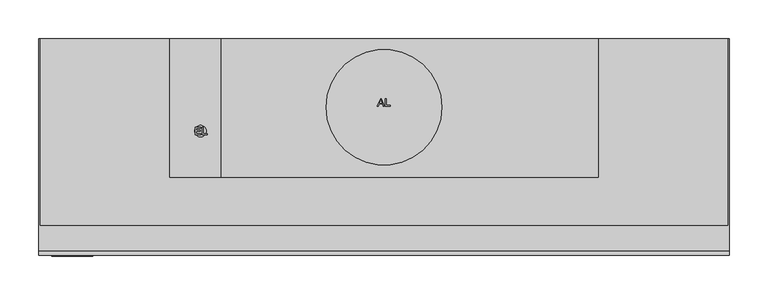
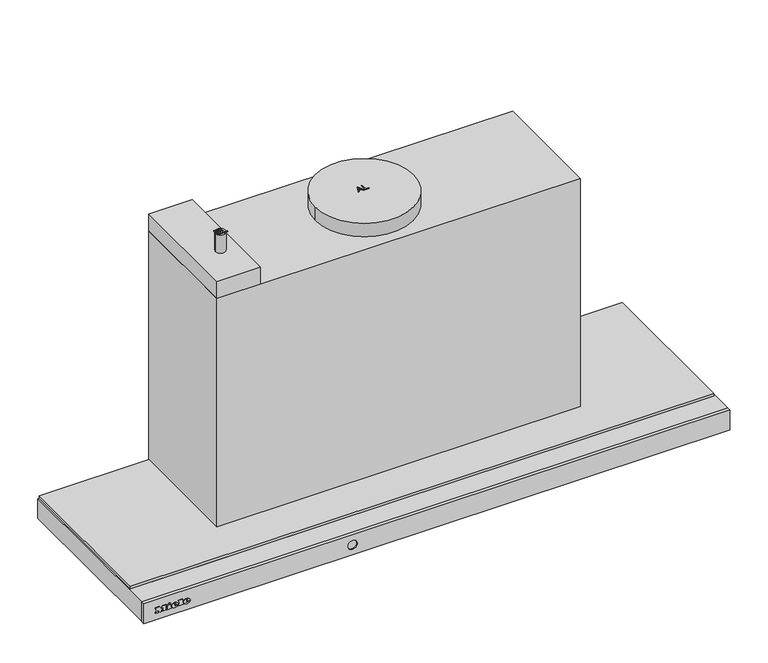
"""IFC4 building model written with IfcOpenShell, lengths in millimetres: proxy geometry, 12025120_NER_DAS4930_OBSW : 28S4930B_NER_12025120_DAS4930_OBSW."""

from ifc_helpers import new_model, si_unit, point, frame, frame_2d, origin, origin_with_axes, place, context, project, spatial, polyline, circle_curve, ellipse_curve, trimmed, segment, composite_curve, outline, extrude, faceted_brep, source, transform, mapped, element, save
from ifc_brep_helpers import plane_surface, cylinder_surface, revolved_surface, extruded_surface, advanced_brep


def specialty_equipment_2f2f18a0(model_context):
    return source(origin(), model_context, "Body", "SolidModel", [
        advanced_brep(
        [(-383.4590019, -282.1878927, -18.7681017), (-383.4590019, -282.1878927, -17.8894017), (-377.6387019, -282.1878927, -17.8894017), (-387.7655019, -282.1878927, -17.8894017), (-385.3730019, -282.1878927, -20.8300017), (-377.7866019, -282.1878927, -18.7681017), (-380.4140019, -282.1878927, -18.7681017), (-382.4846019, -282.1878927, -19.7425017), (-383.4590019, -282.1878927, -16.7758017), (-383.4590019, -282.1878927, -15.8275017), (-381.9713019, -282.1878927, -15.8275017), (-381.9713019, -282.1878927, -16.7758017), (-383.4590019, -281.1878927, -18.7681017), (-382.4846019, -281.1878927, -19.7425017), (-380.4140019, -281.1878927, -18.7681017), (-377.7866019, -281.1878927, -18.7681017), (-385.3730019, -281.1878927, -20.8300017), (-387.7655019, -281.1878927, -17.8894017), (-377.6387019, -281.1878927, -17.8894017), (-383.4590019, -281.1878927, -17.8894017), (-383.4590019, -281.1878927, -16.7758017), (-381.9713019, -281.1878927, -16.7758017), (-381.9713019, -281.1878927, -15.8275017), (-383.4590019, -281.1878927, -15.8275017)],
        [
            (0, 1),
            (1, 2),
            (2, 3, ellipse_curve(frame((-382.7021019, -282.1878927, -17.8894017), z_axis=(0.0, -1.0, 0.0), x_axis=(-1.0, 0.0, 0.0)), 5.0634, 4.1847)),
            (3, 4, circle_curve(frame((-384.3985544, -282.1878927, -17.5936017), z_axis=(0.0, -1.0, 0.0), x_axis=(0.0, 0.0, -1.0)), 3.3799161)),
            (4, 5, circle_curve(frame((-382.8034638, -282.1878927, -15.2968017), z_axis=(0.0, -1.0, 0.0), x_axis=(0.0, 0.0, -1.0)), 6.1007236)),
            (5, 6),
            (6, 7, circle_curve(frame((-382.0593254, -282.1878927, -17.9590017), z_axis=(0.0, 1.0, 0.0), x_axis=(0.0, 0.0, -1.0)), 1.8335027)),
            (7, 0, circle_curve(frame((-382.4846019, -282.1878927, -18.7681017), z_axis=(0.0, 1.0, 0.0), x_axis=(0.0, 0.0, -1.0)), 0.9744)),
            (8, 9),
            (9, 10, circle_curve(frame((-382.7151519, -282.1878927, -15.8275017), z_axis=(0.0, 1.0, 0.0), x_axis=(0.0, 0.0, -1.0)), 0.74385)),
            (10, 11),
            (11, 8),
            (12, 13, circle_curve(frame((-382.4846019, -281.1878927, -18.7681017), z_axis=(0.0, -1.0, 0.0), x_axis=(0.0, 0.0, -1.0)), 0.9744)),
            (13, 14, circle_curve(frame((-382.0593254, -281.1878927, -17.9590017), z_axis=(0.0, -1.0, 0.0), x_axis=(0.0, 0.0, -1.0)), 1.8335027)),
            (14, 15),
            (15, 16, circle_curve(frame((-382.8034638, -281.1878927, -15.2968017), z_axis=(0.0, 1.0, 0.0), x_axis=(0.0, 0.0, -1.0)), 6.1007236)),
            (16, 17, circle_curve(frame((-384.3985544, -281.1878927, -17.5936017), z_axis=(0.0, 1.0, 0.0), x_axis=(0.0, 0.0, -1.0)), 3.3799161)),
            (17, 18, ellipse_curve(frame((-382.7021019, -281.1878927, -17.8894017), z_axis=(0.0, 1.0, 0.0), x_axis=(-1.0, 0.0, 0.0)), 5.0634, 4.1847)),
            (18, 19),
            (19, 12),
            (20, 21),
            (21, 22),
            (22, 23, circle_curve(frame((-382.7151519, -281.1878927, -15.8275017), z_axis=(0.0, -1.0, 0.0), x_axis=(0.0, 0.0, -1.0)), 0.74385)),
            (23, 20),
            (0, 12),
            (19, 1),
            (18, 2),
            (5, 15),
            (14, 6),
            (17, 3),
            (13, 7),
            (16, 4),
            (8, 20),
            (23, 9),
            (22, 10),
            (21, 11),
        ],
        [
            plane_surface(frame((-383.4590019, -282.1878927, -17.8894017), z_axis=(0.0, -1.0, 0.0), x_axis=(0.0, 0.0, 1.0))),
            plane_surface(frame((-383.4590019, -281.1878927, -17.8894017), z_axis=(0.0, 1.0, 0.0), x_axis=(0.0, 0.0, -1.0))),
            plane_surface(frame((-383.4590019, -282.1878927, -18.7681017), z_axis=(1.0, 0.0, 0.0), x_axis=(0.0, 1.0, 0.0))),
            plane_surface(frame((-383.4590019, -282.1878927, -17.8894017), z_axis=(0.0, 0.0, -1.0), x_axis=(0.0, 1.0, 0.0))),
            plane_surface(frame((-377.7866019, -282.1878927, -18.7681017), z_axis=(0.0, 0.0, 1.0), x_axis=(0.0, 1.0, 0.0))),
            extruded_surface(trimmed(ellipse_curve(frame((-382.7021019, -280.1878927, -17.8894017), z_axis=(0.0, -1.0, 0.0), x_axis=(-1.0, 0.0, 0.0)), 5.0634, 4.1847), [point((-377.6387019, -280.1878927, -17.8894017))], [point((-387.7655019, -280.1878927, -17.8894017))], True, "CARTESIAN"), (0.0, -1.0, 0.0), 1.0),
            revolved_surface(polyline([(-382.0593254, -281.1878927, -19.792504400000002), (-382.0593254, -282.1878927, -19.792504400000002)]), (-382.0593254, -281.1878927, -17.9590017), (0.0, 1.0, 0.0)),
            revolved_surface(polyline([(-382.4846019, -281.1878927, -19.7425017), (-382.4846019, -282.1878927, -19.7425017)]), (-382.4846019, -281.1878927, -18.7681017), (0.0, 1.0, 0.0)),
            cylinder_surface(frame((-384.3985544, -281.1878927, -17.5936017), z_axis=(0.0, -1.0, 0.0), x_axis=(0.0, 0.0, -1.0)), 3.3799161),
            cylinder_surface(frame((-382.8034638, -281.1878927, -15.2968017), z_axis=(0.0, -1.0, 0.0), x_axis=(0.0, 0.0, -1.0)), 6.1007236),
            plane_surface(frame((-383.4590019, -282.1878927, -16.7758017), z_axis=(1.0, 0.0, 0.0), x_axis=(0.0, 1.0, 0.0))),
            revolved_surface(polyline([(-382.7151519, -281.1878927, -16.571351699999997), (-382.7151519, -282.1878927, -16.571351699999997)]), (-382.7151519, -281.1878927, -15.8275017), (0.0, 1.0, 0.0)),
            plane_surface(frame((-381.9713019, -282.1878927, -15.8275017), z_axis=(-1.0, 0.0, 0.0), x_axis=(0.0, 1.0, 0.0))),
            plane_surface(frame((-381.9713019, -282.1878927, -16.7758017), z_axis=(0.0, 0.0, 1.0), x_axis=(0.0, 1.0, 0.0))),
        ],
        [
            (0, [[1, 2, 3, 4, 5, 6, 7, 8], [9, 10, 11, 12]]),
            (1, [[13, 14, 15, 16, 17, 18, 19, 20], [21, 22, 23, 24]]),
            (2, [[-1, 25, -20, 26]]),
            (3, [[-2, -26, -19, 27]]),
            (4, [[-6, 28, -15, 29]]),
            (5, [[-3, -27, -18, 30]]),
            (6, [[-7, -29, -14, 31]]),
            (7, [[-8, -31, -13, -25]]),
            (8, [[-4, -30, -17, 32]]),
            (9, [[-5, -32, -16, -28]]),
            (10, [[-9, 33, -24, 34]]),
            (11, [[-10, -34, -23, 35]]),
            (12, [[-11, -35, -22, 36]]),
            (13, [[-12, -36, -21, -33]]),
        ],
    ),
        advanced_brep(
        [(-401.6159019, -282.1878927, -18.7681017), (-401.6159019, -282.1878927, -17.8894017), (-395.7956019, -282.1878927, -17.8894017), (-405.9224019, -282.1878927, -17.8894017), (-403.5299019, -282.1878927, -20.8300017), (-395.9435019, -282.1878927, -18.7681017), (-398.5709019, -282.1878927, -18.7681017), (-400.6415019, -282.1878927, -19.7425017), (-401.6159019, -282.1878927, -16.7758017), (-401.6159019, -282.1878927, -15.8275017), (-400.1282019, -282.1878927, -15.8275017), (-400.1282019, -282.1878927, -16.7758017), (-401.6159019, -281.1878927, -18.7681017), (-400.6415019, -281.1878927, -19.7425017), (-398.5709019, -281.1878927, -18.7681017), (-395.9435019, -281.1878927, -18.7681017), (-403.5299019, -281.1878927, -20.8300017), (-405.9224019, -281.1878927, -17.8894017), (-395.7956019, -281.1878927, -17.8894017), (-401.6159019, -281.1878927, -17.8894017), (-401.6159019, -281.1878927, -16.7758017), (-400.1282019, -281.1878927, -16.7758017), (-400.1282019, -281.1878927, -15.8275017), (-401.6159019, -281.1878927, -15.8275017)],
        [
            (0, 1),
            (1, 2),
            (2, 3, ellipse_curve(frame((-400.8590019, -282.1878927, -17.8894017), z_axis=(0.0, -1.0, 0.0), x_axis=(-1.0, 0.0, 0.0)), 5.0634, 4.1847)),
            (3, 4, circle_curve(frame((-402.5554544, -282.1878927, -17.5936017), z_axis=(0.0, -1.0, 0.0), x_axis=(0.0, 0.0, -1.0)), 3.3799161)),
            (4, 5, circle_curve(frame((-400.9603638, -282.1878927, -15.2968017), z_axis=(0.0, -1.0, 0.0), x_axis=(0.0, 0.0, -1.0)), 6.1007236)),
            (5, 6),
            (6, 7, circle_curve(frame((-400.2162254, -282.1878927, -17.9590017), z_axis=(0.0, 1.0, 0.0), x_axis=(0.0, 0.0, -1.0)), 1.8335027)),
            (7, 0, circle_curve(frame((-400.6415019, -282.1878927, -18.7681017), z_axis=(0.0, 1.0, 0.0), x_axis=(0.0, 0.0, -1.0)), 0.9744)),
            (8, 9),
            (9, 10, circle_curve(frame((-400.8720519, -282.1878927, -15.8275017), z_axis=(0.0, 1.0, 0.0), x_axis=(0.0, 0.0, -1.0)), 0.74385)),
            (10, 11),
            (11, 8),
            (12, 13, circle_curve(frame((-400.6415019, -281.1878927, -18.7681017), z_axis=(0.0, -1.0, 0.0), x_axis=(0.0, 0.0, -1.0)), 0.9744)),
            (13, 14, circle_curve(frame((-400.2162254, -281.1878927, -17.9590017), z_axis=(0.0, -1.0, 0.0), x_axis=(0.0, 0.0, -1.0)), 1.8335027)),
            (14, 15),
            (15, 16, circle_curve(frame((-400.9603638, -281.1878927, -15.2968017), z_axis=(0.0, 1.0, 0.0), x_axis=(0.0, 0.0, -1.0)), 6.1007236)),
            (16, 17, circle_curve(frame((-402.5554544, -281.1878927, -17.5936017), z_axis=(0.0, 1.0, 0.0), x_axis=(0.0, 0.0, -1.0)), 3.3799161)),
            (17, 18, ellipse_curve(frame((-400.8590019, -281.1878927, -17.8894017), z_axis=(0.0, 1.0, 0.0), x_axis=(-1.0, 0.0, 0.0)), 5.0634, 4.1847)),
            (18, 19),
            (19, 12),
            (20, 21),
            (21, 22),
            (22, 23, circle_curve(frame((-400.8720519, -281.1878927, -15.8275017), z_axis=(0.0, -1.0, 0.0), x_axis=(0.0, 0.0, -1.0)), 0.74385)),
            (23, 20),
            (0, 12),
            (19, 1),
            (18, 2),
            (5, 15),
            (14, 6),
            (17, 3),
            (13, 7),
            (16, 4),
            (8, 20),
            (23, 9),
            (22, 10),
            (21, 11),
        ],
        [
            plane_surface(frame((-401.6159019, -282.1878927, -17.8894017), z_axis=(0.0, -1.0, 0.0), x_axis=(0.0, 0.0, 1.0))),
            plane_surface(frame((-401.6159019, -281.1878927, -17.8894017), z_axis=(0.0, 1.0, 0.0), x_axis=(0.0, 0.0, -1.0))),
            plane_surface(frame((-401.6159019, -282.1878927, -18.7681017), z_axis=(1.0, 0.0, 0.0), x_axis=(0.0, 1.0, 0.0))),
            plane_surface(frame((-401.6159019, -282.1878927, -17.8894017), z_axis=(0.0, 0.0, -1.0), x_axis=(0.0, 1.0, 0.0))),
            plane_surface(frame((-395.9435019, -282.1878927, -18.7681017), z_axis=(0.0, 0.0, 1.0), x_axis=(0.0, 1.0, 0.0))),
            extruded_surface(trimmed(ellipse_curve(frame((-400.8590019, -280.1878927, -17.8894017), z_axis=(0.0, -1.0, 0.0), x_axis=(-1.0, 0.0, 0.0)), 5.0634, 4.1847), [point((-395.7956019, -280.1878927, -17.8894017))], [point((-405.9224019, -280.1878927, -17.8894017))], True, "CARTESIAN"), (0.0, -1.0, 0.0), 1.0),
            revolved_surface(polyline([(-400.2162254, -281.1878927, -19.792504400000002), (-400.2162254, -282.1878927, -19.792504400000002)]), (-400.2162254, -281.1878927, -17.9590017), (0.0, 1.0, 0.0)),
            revolved_surface(polyline([(-400.6415019, -281.1878927, -19.7425017), (-400.6415019, -282.1878927, -19.7425017)]), (-400.6415019, -281.1878927, -18.7681017), (0.0, 1.0, 0.0)),
            cylinder_surface(frame((-402.5554544, -281.1878927, -17.5936017), z_axis=(0.0, -1.0, 0.0), x_axis=(0.0, 0.0, -1.0)), 3.3799161),
            cylinder_surface(frame((-400.9603638, -281.1878927, -15.2968017), z_axis=(0.0, -1.0, 0.0), x_axis=(0.0, 0.0, -1.0)), 6.1007236),
            plane_surface(frame((-401.6159019, -282.1878927, -16.7758017), z_axis=(1.0, 0.0, 0.0), x_axis=(0.0, 1.0, 0.0))),
            revolved_surface(polyline([(-400.8720519, -281.1878927, -16.571351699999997), (-400.8720519, -282.1878927, -16.571351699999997)]), (-400.8720519, -281.1878927, -15.8275017), (0.0, 1.0, 0.0)),
            plane_surface(frame((-400.1282019, -282.1878927, -15.8275017), z_axis=(-1.0, 0.0, 0.0), x_axis=(0.0, 1.0, 0.0))),
            plane_surface(frame((-400.1282019, -282.1878927, -16.7758017), z_axis=(0.0, 0.0, 1.0), x_axis=(0.0, 1.0, 0.0))),
        ],
        [
            (0, [[1, 2, 3, 4, 5, 6, 7, 8], [9, 10, 11, 12]]),
            (1, [[13, 14, 15, 16, 17, 18, 19, 20], [21, 22, 23, 24]]),
            (2, [[-1, 25, -20, 26]]),
            (3, [[-2, -26, -19, 27]]),
            (4, [[-6, 28, -15, 29]]),
            (5, [[-3, -27, -18, 30]]),
            (6, [[-7, -29, -14, 31]]),
            (7, [[-8, -31, -13, -25]]),
            (8, [[-4, -30, -17, 32]]),
            (9, [[-5, -32, -16, -28]]),
            (10, [[-9, 33, -24, 34]]),
            (11, [[-10, -34, -23, 35]]),
            (12, [[-11, -35, -22, 36]]),
            (13, [[-12, -36, -21, -33]]),
        ],
    ),
        extrude(outline(polyline([(-12.6433017, -411.1250019), (-14.0527017, -410.4638019), (-12.6781017, -407.5145019), (-11.2687017, -408.1670019), (-12.6433017, -411.1250019)])), frame((0.0, -282.1878927, 0.0), z_axis=(0.0, 1.0, 0.0), x_axis=(0.0, 0.0, 1.0)), (0.0, 0.0, 1.0), 1.0),
        extrude(outline(polyline([(-14.2441017, -413.2739019), (-15.8014017, -413.2739019), (-15.8014017, -412.2386019), (-19.3684017, -412.2386019), (-19.3684017, -413.2739019), (-20.8300017, -413.2739019), (-20.8300017, -406.4096019), (-19.3684017, -406.4096019), (-19.3684017, -407.4188019), (-14.2441017, -407.4188019), (-14.2441017, -413.2739019)])), frame((0.0, -282.1878927, 0.0), z_axis=(0.0, 1.0, 0.0), x_axis=(0.0, 0.0, 1.0)), (0.0, 0.0, 1.0), 1.0),
        extrude(outline(polyline([(-13.5481017, -395.3084019), (-13.5481017, -394.2644019), (-19.3684017, -394.2644019), (-19.3684017, -395.3084019), (-20.8300017, -395.3084019), (-20.8300017, -388.2527019), (-19.3684017, -388.2527019), (-19.3684017, -389.3228019), (-12.1300017, -389.3228019), (-12.1300017, -395.3084019), (-13.5481017, -395.3084019)])), frame((0.0, -282.1878927, 0.0), z_axis=(0.0, 1.0, 0.0), x_axis=(0.0, 0.0, 1.0)), (0.0, 0.0, 1.0), 1.0),
        extrude(outline(polyline([(-13.5481017, -430.6130019), (-13.5481017, -429.5603019), (-19.3684017, -429.5603019), (-19.3684017, -430.6130019), (-20.8300017, -430.6130019), (-20.8300017, -426.7850019), (-19.3684017, -426.7850019), (-19.3684017, -427.8290019), (-15.6719769, -427.8290019), (-20.8300017, -423.9401019), (-15.5772794, -420.0338019), (-19.3684017, -420.0338019), (-19.3684017, -421.1039019), (-20.8300017, -421.1039019), (-20.8300017, -414.1613019), (-19.3684017, -414.1613019), (-19.3684017, -415.2662019), (-13.5481017, -415.2662019), (-13.5481017, -414.1613019), (-12.1300017, -414.1613019), (-12.1300017, -419.4596019), (-15.3925017, -422.0000019), (-12.1300017, -424.5491019), (-12.1300017, -430.6130019), (-13.5481017, -430.6130019)])), frame((0.0, -282.1878927, 0.0), z_axis=(0.0, 1.0, 0.0), x_axis=(0.0, 0.0, 1.0)), (0.0, 0.0, 1.0), 1.0),
        advanced_brep(
        [(-448.0, -281.1878927, 0.0), (-448.0, -281.1878927, -32.0), (448.0, -281.1878927, -32.0), (448.0, -281.1878927, 0.0), (-121.989338, -281.1878927, -16.0), (-136.010662, -281.1878927, -16.0), (-448.0, -275.4770358, 0.0), (448.0, -275.4770358, 0.0), (448.0, -275.4770358, -32.0), (-448.0, -275.4770358, -32.0), (-136.010662, -279.3472208, -16.0), (-121.989338, -279.3472208, -16.0)],
        [
            (0, 1),
            (1, 2),
            (2, 3),
            (3, 0),
            (4, 5, circle_curve(frame((-129.0, -281.1878927, -16.0), z_axis=(0.0, 1.0, 0.0), x_axis=(1.0, 0.0, 0.0)), 7.010662)),
            (5, 4, circle_curve(frame((-129.0, -281.1878927, -16.0), z_axis=(0.0, 1.0, 0.0), x_axis=(1.0, 0.0, 0.0)), 7.010662)),
            (6, 7),
            (7, 8),
            (8, 9),
            (9, 6),
            (3, 7),
            (6, 0),
            (2, 8),
            (1, 9),
            (10, 11, circle_curve(frame((-129.0, -279.3472208, -16.0), z_axis=(0.0, -1.0, 0.0), x_axis=(1.0, 0.0, 0.0)), 7.010662)),
            (11, 10, circle_curve(frame((-129.0, -279.3472208, -16.0), z_axis=(0.0, -1.0, 0.0), x_axis=(1.0, 0.0, 0.0)), 7.010662)),
            (10, 5),
            (4, 11),
        ],
        [
            plane_surface(frame((-448.0, -281.1878927, 0.0), z_axis=(0.0, -1.0, 0.0), x_axis=(0.0, 0.0, -1.0))),
            plane_surface(frame((-448.0, -275.4770358, 0.0), z_axis=(0.0, 1.0, 0.0), x_axis=(0.0, 0.0, 1.0))),
            plane_surface(frame((448.0, -281.1878927, 0.0), z_axis=(0.0, 0.0, 1.0), x_axis=(0.0, 1.0, 0.0))),
            plane_surface(frame((448.0, -281.1878927, -32.0), z_axis=(1.0, 0.0, 0.0), x_axis=(0.0, 1.0, 0.0))),
            plane_surface(frame((-448.0, -281.1878927, -32.0), z_axis=(0.0, 0.0, -1.0), x_axis=(0.0, 1.0, 0.0))),
            plane_surface(frame((-448.0, -281.1878927, 0.0), z_axis=(-1.0, 0.0, 0.0), x_axis=(0.0, 1.0, 0.0))),
            plane_surface(frame((-121.989338, -279.3472208, -16.0), z_axis=(0.0, -1.0, 0.0), x_axis=(0.0, 0.0, -1.0))),
            revolved_surface(polyline([(-121.989338, -281.1878927, -16.0), (-121.989338, -279.3472208, -16.0)]), (-129.0, -279.3472208, -16.0), (0.0, -1.0, 0.0)),
        ],
        [
            (0, [[1, 2, 3, 4], [5, 6]]),
            (1, [[7, 8, 9, 10]]),
            (2, [[-4, 11, -7, 12]]),
            (3, [[-3, 13, -8, -11]]),
            (4, [[-2, 14, -9, -13]]),
            (5, [[-1, -12, -10, -14]]),
            (6, [[15, 16]]),
            (7, [[-15, 17, -5, 18]]),
            (7, [[-16, -18, -6, -17]]),
        ],
    ),
        extrude(outline(polyline([(278.0, -180.0), (-278.0, -180.0), (-278.0, 0.0), (278.0, 0.0), (278.0, -180.0)])), frame((0.0, 0.0, 4.0), z_axis=(0.0, 0.0, 1.0), x_axis=(1.0, 0.0, 0.0)), (0.0, 0.0, 1.0), 369.0),
        extrude(outline(composite_curve([segment(trimmed(circle_curve(frame_2d((0.0, -89.0)), 75.0), [point((-75.0, -89.0))], [point((75.0, -89.0))], False, "CARTESIAN"), True, "CONTINUOUS"), segment(trimmed(circle_curve(frame_2d((0.0, -89.0)), 75.0), [point((75.0, -89.0))], [point((-75.0, -89.0))], False, "CARTESIAN"), True, "CONTINUOUS")], self_intersect=False)), frame((0.0, 0.0, 373.0), z_axis=(0.0, 0.0, 1.0), x_axis=(1.0, 0.0, 0.0)), (0.0, 0.0, 1.0), 22.0),
        extrude(outline(polyline([(-278.0, -180.0), (-278.0, 0.0), (-212.0, 0.0), (-212.0, -180.0), (-278.0, -180.0)])), frame((0.0, 0.0, 373.0), z_axis=(0.0, 0.0, 1.0), x_axis=(1.0, 0.0, 0.0)), (0.0, 0.0, 1.0), 28.0),
        extrude(outline(polyline([(-8.5446725, -87.975609), (-4.5347587, -77.929978), (-3.4654484, -77.929978), (0.5420128, -87.975609), (-0.7848149, -87.975609), (-1.9326067, -84.8363493), (-6.0725055, -84.8363493), (-7.2202973, -87.975609), (-8.5446725, -87.975609)]), holes=[polyline([(-5.6114267, -83.5806455), (-2.391233, -83.5806455), (-3.2986752, -81.110931), (-4.0025561, -79.1856819), (-4.6279555, -80.8951069), (-5.6114267, -83.5806455)])]), frame((0.0, 0.0, 395.0), z_axis=(0.0, 0.0, 1.0), x_axis=(1.0, 0.0, 0.0)), (0.0, 0.0, 1.0), 1.0),
        extrude(outline(polyline([(1.8835558, -87.975609), (1.8835558, -77.929978), (3.1392597, -77.929978), (3.1392597, -86.7199052), (8.1620752, -86.7199052), (8.1620752, -87.975609), (1.8835558, -87.975609)])), frame((0.0, 0.0, 395.0), z_axis=(0.0, 0.0, 1.0), x_axis=(1.0, 0.0, 0.0)), (0.0, 0.0, 1.0), 1.0),
        extrude(outline(polyline([(446.0, 0.0), (446.0, -242.0), (-446.0, -242.0), (-446.0, 0.0), (446.0, 0.0)])), origin_with_axes(), (0.0, 0.0, 1.0), 4.0),
        extrude(outline(polyline([(120.0, -19.25), (120.0, -31.75), (-120.0, -31.75), (-120.0, -19.25), (120.0, -19.25)])), frame((0.0, 0.0, -23.0), z_axis=(0.0, 0.0, 1.0), x_axis=(1.0, 0.0, 0.0)), (0.0, 0.0, 1.0), 1.785426),
        extrude(outline(polyline([(331.0813184, -268.0), (331.0813184, -246.0), (399.0, -246.0), (399.0, -268.0), (331.0813184, -268.0)])), frame((0.0, 0.0, -33.3019181), z_axis=(0.0, 0.0, 1.0), x_axis=(1.0, 0.0, 0.0)), (0.0, 0.0, 1.0), 1.3019181),
        extrude(outline(polyline([(-399.0, -268.0), (-399.0, -246.0), (-331.0, -246.0), (-331.0, -268.0), (-399.0, -268.0)])), frame((0.0, 0.0, -33.3019181), z_axis=(0.0, 0.0, 1.0), x_axis=(1.0, 0.0, 0.0)), (0.0, 0.0, 1.0), 1.3019181),
        extrude(outline(composite_curve([segment(trimmed(circle_curve(frame_2d((-238.0, -120.0)), 7.5), [point((-230.5, -120.0))], [point((-245.5, -120.0))], False, "CARTESIAN"), True, "CONTINUOUS"), segment(trimmed(circle_curve(frame_2d((-238.0, -120.0)), 7.5), [point((-245.5, -120.0))], [point((-230.5, -120.0))], False, "CARTESIAN"), True, "CONTINUOUS")], self_intersect=False)), frame((0.0, 0.0, 401.0), z_axis=(0.0, 0.0, 1.0), x_axis=(1.0, 0.0, 0.0)), (0.0, 0.0, 1.0), 30.0),
        extrude(outline(polyline([(-235.640443, -124.9184735), (-235.640443, -114.8728425), (-234.3847391, -114.8728425), (-234.3847391, -123.6627696), (-229.3619236, -123.6627696), (-229.3619236, -124.9184735), (-235.640443, -124.9184735)])), frame((0.0, 0.0, 431.0), z_axis=(0.0, 0.0, 1.0), x_axis=(1.0, 0.0, 0.0)), (0.0, 0.0, 1.0), 1.0),
        extrude(outline(polyline([(-244.9012591, -124.9184735), (-244.9012591, -114.8728425), (-237.6809618, -114.8728425), (-237.6809618, -116.1285464), (-243.6455552, -116.1285464), (-243.6455552, -119.1108431), (-237.9948878, -119.1108431), (-237.9948878, -120.366547), (-243.6455552, -120.366547), (-243.6455552, -123.6627696), (-237.5239988, -123.6627696), (-237.5239988, -124.9184735), (-244.9012591, -124.9184735)])), frame((0.0, 0.0, 431.0), z_axis=(0.0, 0.0, 1.0), x_axis=(1.0, 0.0, 0.0)), (0.0, 0.0, 1.0), 1.0),
        extrude(outline(polyline([(-448.0, 0.0), (-413.0, 0.0), (-413.0, -242.0), (413.0, -242.0), (413.0, 0.0), (448.0, 0.0), (448.0, -275.0), (-448.0, -275.0), (-448.0, 0.0)])), frame((0.0, 0.0, -32.0), z_axis=(0.0, 0.0, 1.0), x_axis=(1.0, 0.0, 0.0)), (0.0, 0.0, 1.0), 32.0),
        faceted_brep([(-126.0, -39.0, -24.0), (-126.0, -39.0, 0.0), (126.0, -39.0, 0.0), (126.0, -39.0, -24.0), (-126.0, -12.0, -24.0), (-126.0, -12.0, 0.0), (126.0, -12.0, -24.0), (126.0, -12.0, 0.0), (-413.0, -242.0, 0.0), (-413.0, 0.0, 0.0), (-413.0, 0.0, -24.0), (-413.0, -52.0, -24.0), (-413.0, -52.0, -25.0), (-413.0, -242.0, -25.0), (413.0, -52.0, -25.0), (413.0, -242.0, -25.0), (413.0, -52.0, -24.0), (413.0, 0.0, -24.0), (413.0, 0.0, 0.0), (413.0, -242.0, 0.0)], [[[0, 1, 2, 3]], [[4, 5, 1, 0]], [[6, 7, 5, 4]], [[8, 9, 10, 11, 12, 13]], [[13, 12, 14, 15]], [[16, 11, 10, 17], [6, 4, 0, 3]], [[11, 16, 14, 12]], [[18, 9, 8, 19], [5, 7, 2, 1]], [[9, 18, 17, 10]], [[19, 8, 13, 15]], [[18, 19, 15, 14, 16, 17]], [[7, 6, 3, 2]]]),
        extrude(outline(polyline([(126.0, -12.0), (126.0, -39.0), (-126.0, -39.0), (-126.0, -12.0), (126.0, -12.0)]), holes=[polyline([(120.0, -19.25), (-120.0, -19.25), (-120.0, -31.75), (120.0, -31.75), (120.0, -19.25)])]), frame((0.0, 0.0, -21.214574), z_axis=(0.0, 0.0, 1.0), x_axis=(1.0, 0.0, 0.0)), (0.0, 0.0, 1.0), 21.214574),
    ])


if __name__ == "__main__":
    model = new_model("IFC4")
    model_context = context("Model", 3, world=origin())
    ifc_project = project(units=[si_unit("LENGTHUNIT", "METRE", prefix="MILLI")], contexts=[model_context])
    site = spatial("IfcSite", under=ifc_project)
    building = spatial("IfcBuilding", under=site)
    placement = place(None, origin())
    specialty_equipment_shape = specialty_equipment_2f2f18a0(model_context)
    element("IfcBuildingElementProxy", 1, Name="12025120_NER_DAS4930_OBSW : 28S4930B_NER_12025120_DAS4930_OBSW", ObjectType="12025120_NER_DAS4930_OBSW : 28S4930B_NER_12025120_DAS4930_OBSW", at=placement, inside=building, context=model_context, shape_type="MappedRepresentation", body=[
        mapped(specialty_equipment_shape, transform((0.0, 0.0, 0.0), x_axis=(1.0, 0.0, 0.0), y_axis=(0.0, 1.0, 0.0), z_axis=(0.0, 0.0, 1.0))),
    ])
    save(model, "model.ifc")
